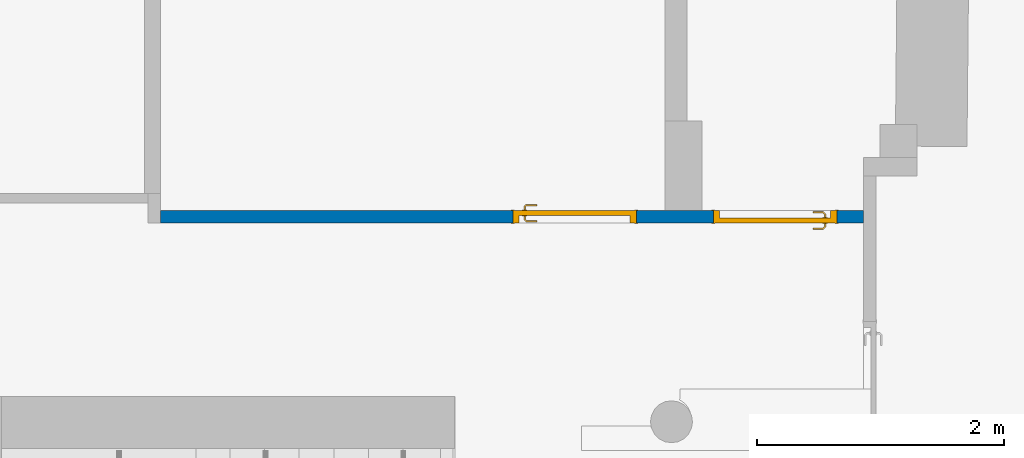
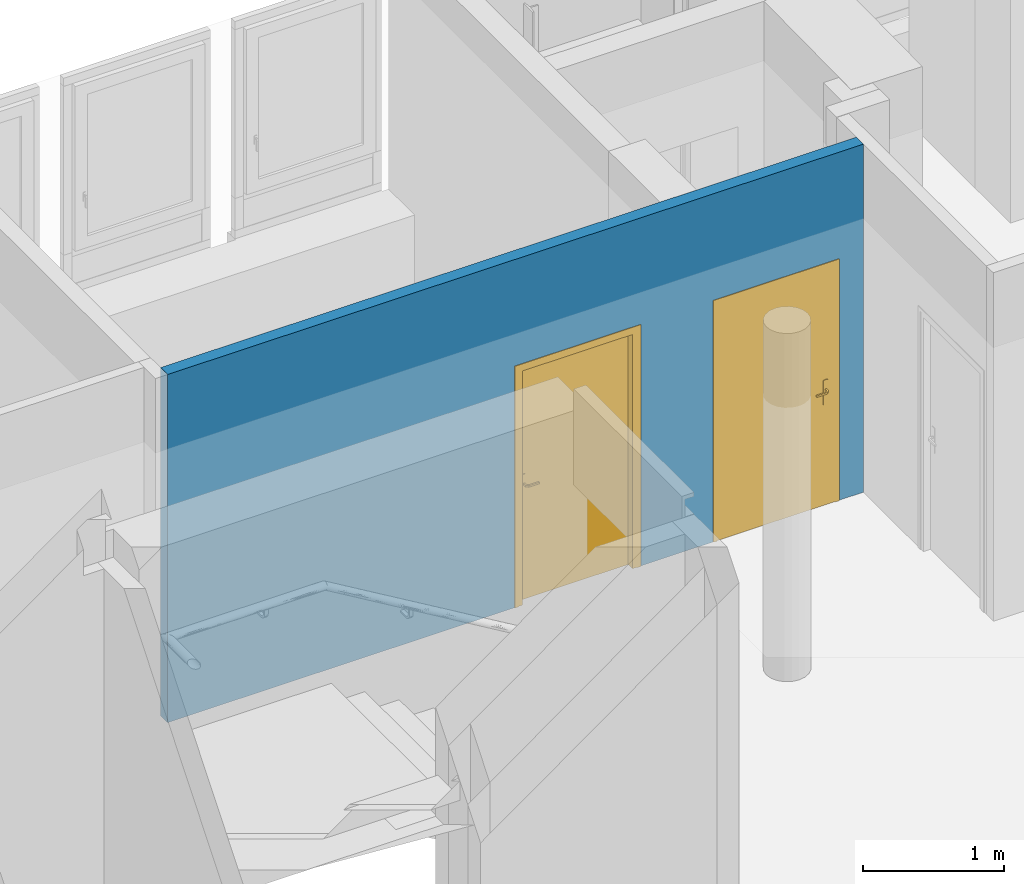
# One storey, part 70 of 97: 2 doors, 1 wall, 2 openings.
"""IFC4 building model written with IfcOpenShell, lengths in metres."""

import ifcopenshell
import ifcopenshell.guid

model = None  # the IFC model being written
_history = None  # IfcOwnerHistory: only IFC2X3 demands one
_inside = {}  # id of a spatial element -> (the spatial element, [elements in it])
_under = {}  # id of a project, library or spatial element -> (it, [spatial elements below it])
_declared = {}  # id of a project -> (the project, [libraries it declares])
_typed = {}  # id of a type object -> (the type object, [elements of that type])
_made_of = {}  # id of a material, layer set ... -> (it, [elements and type objects made of it])


def new_model(schema):
    """Start an empty IFC model of exactly this schema.

    Asked for "IFC4X3", IfcOpenShell would pick the latest addendum, in which some entities
    have other attributes; the version numbers below select the first issue.
    IFC2X3 requires an IfcOwnerHistory on every rooted entity: one is made here for all.
    """
    global model, _history
    if schema == "IFC4X3":
        model = ifcopenshell.file(schema_version=(4, 3, 0, 0))
    else:
        model = ifcopenshell.file(schema=schema)
    _inside.clear()
    _under.clear()
    _declared.clear()
    _typed.clear()
    _made_of.clear()
    _history = None
    if model.schema == "IFC2X3":
        org = make("IfcOrganization", Name="unknown")
        user = make(
            "IfcPersonAndOrganization",
            ThePerson=make("IfcPerson", FamilyName="unknown"),
            TheOrganization=org,
        )
        app = make(
            "IfcApplication",
            ApplicationDeveloper=org,
            Version="unknown",
            ApplicationFullName="unknown",
            ApplicationIdentifier="unknown",
        )
        _history = make(
            "IfcOwnerHistory",
            OwningUser=user,
            OwningApplication=app,
            ChangeAction="ADDED",
            CreationDate=0,
        )
    return model


def make(cls, **values):
    """One entity of the class cls with the attributes given. An attribute that is None is left unset."""
    return model.create_entity(
        cls, **{name: value for name, value in values.items() if value is not None}
    )


def entity(cls, *values):
    """Any entity or typed value of the class cls, its attributes in the order of the schema. None: left unset."""
    e = model.create_entity(cls)
    for i, value in enumerate(values):
        if value is not None:
            e[i] = value
    return e


def rooted(cls, **values):
    """An entity with a GlobalId (a new one), such as an element, a storey or a relation."""
    return make(cls, GlobalId=ifcopenshell.guid.new(), OwnerHistory=_history, **values)


def si_unit(unit_type, name, prefix=None):
    """IfcSIUnit, for example si_unit("LENGTHUNIT", "METRE", prefix="MILLI")."""
    return make("IfcSIUnit", UnitType=unit_type, Prefix=prefix, Name=name)


def converted_unit(unit_type, name, factor, base, dimensions=None, offset=None):
    """IfcConversionBasedUnit, such as the inch: factor (a typed value) times the base unit."""
    return make(
        "IfcConversionBasedUnit"
        if offset is None
        else "IfcConversionBasedUnitWithOffset",
        ConversionOffset=offset,
        Dimensions=None
        if dimensions is None
        else entity("IfcDimensionalExponents", *dimensions),
        UnitType=unit_type,
        Name=name,
        ConversionFactor=make(
            "IfcMeasureWithUnit", ValueComponent=factor, UnitComponent=base
        ),
    )


def derived_unit(unit_type, elements):
    """IfcDerivedUnit: a product of units, each with its exponent."""
    return make(
        "IfcDerivedUnit",
        Elements=[
            make("IfcDerivedUnitElement", Unit=unit, Exponent=power)
            for unit, power in elements
        ],
        UnitType=unit_type,
    )


def assignment(units):
    """IfcUnitAssignment: the units of a project."""
    return None if units is None else make("IfcUnitAssignment", Units=units)


def point(xyz):
    """IfcCartesianPoint."""
    return None if xyz is None else make("IfcCartesianPoint", Coordinates=xyz)


def direction(xyz):
    """IfcDirection."""
    return None if xyz is None else make("IfcDirection", DirectionRatios=xyz)


def frame(location, z_axis=None, x_axis=None):
    """IfcAxis2Placement3D, a coordinate frame: its origin and axes. An axis left out is left unset."""
    return make(
        "IfcAxis2Placement3D",
        Location=point(location),
        Axis=direction(z_axis),
        RefDirection=direction(x_axis),
    )


def origin():
    """The frame at (0, 0, 0) with its axes left unset."""
    return frame((0.0, 0.0, 0.0))


def place(relative_to, where):
    """IfcLocalPlacement: puts the frame where relative to a parent placement (None: the world)."""
    return make(
        "IfcLocalPlacement", PlacementRelTo=relative_to, RelativePlacement=where
    )


def context(
    kind, dimensions, precision=None, world=None, true_north=None, identifier=None
):
    """IfcGeometricRepresentationContext, for example the 3D "Model" context."""
    return make(
        "IfcGeometricRepresentationContext",
        ContextIdentifier=identifier,
        ContextType=kind,
        CoordinateSpaceDimension=dimensions,
        Precision=precision,
        WorldCoordinateSystem=world,
        TrueNorth=true_north,
    )


def subcontext(parent, identifier, kind, view, scale=None):
    """IfcGeometricRepresentationSubContext, for example "Body" below "Model"."""
    return make(
        "IfcGeometricRepresentationSubContext",
        ContextIdentifier=identifier,
        ContextType=kind,
        ParentContext=parent,
        TargetScale=scale,
        TargetView=view,
    )


def project(units=None, contexts=None):
    """IfcProject with its units and contexts."""
    return rooted(
        "IfcProject",
        Name="project",
        RepresentationContexts=contexts,
        UnitsInContext=assignment(units),
    )


def spatial(cls, under=None, at=None, **own):
    """A site, building, storey or space (cls), placed at a placement, below another one or the project."""
    s = rooted(cls, ObjectPlacement=at, **own)
    if under is not None:
        _under.setdefault(under.id(), (under, []))[1].append(s)
    return s


def point_list(points):
    """IfcCartesianPointList2D or 3D."""
    cls = (
        "IfcCartesianPointList2D" if len(points[0]) == 2 else "IfcCartesianPointList3D"
    )
    return make(cls, CoordList=points)


def indexed_curve(points, segments=None, self_intersect=None):
    """IfcIndexedPolyCurve: lines and arcs through numbered points (the first is 1)."""
    return make(
        "IfcIndexedPolyCurve",
        Points=point_list(points),
        Segments=segments,
        SelfIntersect=self_intersect,
    )


def outline(outer, holes=None, kind="AREA"):
    """IfcArbitraryClosedProfileDef: a profile drawn as a closed curve; with holes, ...WithVoids."""
    if holes is None:
        return make("IfcArbitraryClosedProfileDef", ProfileType=kind, OuterCurve=outer)
    return make(
        "IfcArbitraryProfileDefWithVoids",
        ProfileType=kind,
        OuterCurve=outer,
        InnerCurves=holes,
    )


def extrude(swept, where, along, depth):
    """IfcExtrudedAreaSolid: the profile swept, set in the frame where, extruded along a direction by depth."""
    return make(
        "IfcExtrudedAreaSolid",
        SweptArea=swept,
        Position=where,
        ExtrudedDirection=direction(along),
        Depth=depth,
    )


def polygons(points, faces, closed=None, point_numbers=None):
    """IfcPolygonalFaceSet: a face is its outer loop, then its inner loops; points numbered from 1."""
    made = []
    for loops in faces:
        if len(loops) == 1:
            made.append(make("IfcIndexedPolygonalFace", CoordIndex=loops[0]))
        else:
            made.append(
                make(
                    "IfcIndexedPolygonalFaceWithVoids",
                    CoordIndex=loops[0],
                    InnerCoordIndices=loops[1:],
                )
            )
    return make(
        "IfcPolygonalFaceSet",
        Coordinates=point_list(points),
        Closed=closed,
        Faces=made,
        PnIndex=point_numbers,
    )


def shape(context_of_items, identifier, shape_type, items):
    """IfcShapeRepresentation: the items that make up one representation, for example the "Body"."""
    return make(
        "IfcShapeRepresentation",
        ContextOfItems=context_of_items,
        RepresentationIdentifier=identifier,
        RepresentationType=shape_type,
        Items=items,
    )


def source(mapping_origin, context_of_items, identifier, shape_type, items):
    """IfcRepresentationMap: a shape defined once, which mapped items show again and again."""
    return make(
        "IfcRepresentationMap",
        MappingOrigin=mapping_origin,
        MappedRepresentation=shape(context_of_items, identifier, shape_type, items),
    )


def transform(
    local_origin,
    x_axis=None,
    y_axis=None,
    z_axis=None,
    scale=None,
    scale2=None,
    scale3=None,
    uniform=True,
):
    """IfcCartesianTransformationOperator3D, or its non-uniform kind. x_axis, y_axis, z_axis: its Axis1, 2, 3."""
    if uniform:
        return make(
            "IfcCartesianTransformationOperator3D",
            Axis1=direction(x_axis),
            Axis2=direction(y_axis),
            LocalOrigin=point(local_origin),
            Scale=scale,
            Axis3=direction(z_axis),
        )
    return make(
        "IfcCartesianTransformationOperator3DnonUniform",
        Axis1=direction(x_axis),
        Axis2=direction(y_axis),
        LocalOrigin=point(local_origin),
        Scale=scale,
        Axis3=direction(z_axis),
        Scale2=scale2,
        Scale3=scale3,
    )


def mapped(mapping_source, mapping_target):
    """IfcMappedItem: shows the shape of a source again, moved by a transform."""
    return make(
        "IfcMappedItem", MappingSource=mapping_source, MappingTarget=mapping_target
    )


def material(Name=None, Category=None):
    """IfcMaterial."""
    return make("IfcMaterial", Name=Name, Category=Category)


def material_list(materials):
    """IfcMaterialList."""
    return make("IfcMaterialList", Materials=materials)


def layer(
    of_material, thickness, ventilated=None, Name=None, Category=None, Priority=None
):
    """IfcMaterialLayer: one layer of a wall or slab, of a material (None: an air gap)."""
    return make(
        "IfcMaterialLayer",
        Material=of_material,
        LayerThickness=thickness,
        IsVentilated=ventilated,
        Name=Name,
        Category=Category,
        Priority=Priority,
    )


def layer_set(layers, Name=None):
    """IfcMaterialLayerSet."""
    return make("IfcMaterialLayerSet", MaterialLayers=layers, LayerSetName=Name)


def constituent(of_material, Name=None, Category=None, fraction=None):
    """IfcMaterialConstituent: one of the materials an element consists of."""
    return make(
        "IfcMaterialConstituent",
        Name=Name,
        Material=of_material,
        Fraction=fraction,
        Category=Category,
    )


def constituent_set(constituents=None, Name=None):
    """IfcMaterialConstituentSet."""
    return make(
        "IfcMaterialConstituentSet", Name=Name, MaterialConstituents=constituents
    )


def made_of(thing, what):
    """Note that an element or type object is made of a material, layer set ...; save() writes the relation."""
    if what is not None:
        _made_of.setdefault(what.id(), (what, []))[1].append(thing)
    return thing


def type_object(cls, material=None, **own):
    """A type object (cls), such as IfcWallType, which elements share."""
    return made_of(rooted(cls, **own), material)


def type_shapes(of_type, sources):
    """Give a type object the sources (RepresentationMaps) that its elements show as mapped items."""
    of_type.RepresentationMaps = sources


def element(
    cls,
    number,
    at=None,
    inside=None,
    cuts=None,
    type_object=None,
    material=None,
    context=None,
    identifier="Body",
    shape_type=None,
    held_by="IfcProductDefinitionShape",
    body=None,
    shapes=None,
    **own,
):
    """One element of the class cls, such as IfcWall. Its Tag is "e" and its number.

    at: its placement. inside: the storey or other place that contains it. cuts: it is an
    opening in that element (IfcRelVoidsElement). A single representation is given by context,
    identifier, shape_type and body (its items); several are given by shapes. held_by: the class
    of the entity that holds the representations. save() writes the other relations.
    """
    e = rooted(cls, Tag="e%d" % number, ObjectPlacement=at, **own)
    if body is not None:
        shapes = [shape(context, identifier, shape_type, body)]
    if shapes is not None:
        e.Representation = make(held_by, Representations=shapes)
    if inside is not None:
        _inside.setdefault(inside.id(), (inside, []))[1].append(e)
    if cuts is not None:
        rooted(
            "IfcRelVoidsElement", RelatingBuildingElement=cuts, RelatedOpeningElement=e
        )
    if type_object is not None:
        _typed.setdefault(type_object.id(), (type_object, []))[1].append(e)
    return made_of(e, material)


def fill(opening, filler):
    """IfcRelFillsElement: the door or window that sits in an opening."""
    return rooted(
        "IfcRelFillsElement",
        RelatingOpeningElement=opening,
        RelatedBuildingElement=filler,
    )


def aggregate(whole, parts):
    """IfcRelAggregates: a whole, such as a stair, and the parts it consists of."""
    return rooted("IfcRelAggregates", RelatingObject=whole, RelatedObjects=parts)


def save(model, path):
    """Write the relations noted so far, then the file.

    IfcRelAggregates (storeys below a building ...), IfcRelContainedInSpatialStructure (elements
    in a storey), IfcRelDefinesByType, IfcRelAssociatesMaterial and IfcRelDeclares: one each for
    every whole, place, type object, material and project.
    """
    for whole, parts in _under.values():
        aggregate(whole, parts)
    for where, things in _inside.values():
        rooted(
            "IfcRelContainedInSpatialStructure",
            RelatedElements=things,
            RelatingStructure=where,
        )
    for kind, things in _typed.values():
        rooted("IfcRelDefinesByType", RelatedObjects=things, RelatingType=kind)
    for what, things in _made_of.values():
        rooted("IfcRelAssociatesMaterial", RelatedObjects=things, RelatingMaterial=what)
    for by, libraries in _declared.values():
        rooted("IfcRelDeclares", RelatingContext=by, RelatedDefinitions=libraries)
    model.write(path)


model = new_model("IFC4")

# Units and contexts
model_context = context("Model", 3, precision=1e-05, world=origin(), true_north=direction((6.12303176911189e-17, 1.0)))
body_context = subcontext(model_context, "Body", "Model", "MODEL_VIEW")
ifc_project = project(units=[si_unit("LENGTHUNIT", "METRE"), si_unit("AREAUNIT", "SQUARE_METRE"), si_unit("VOLUMEUNIT", "CUBIC_METRE"), converted_unit("PLANEANGLEUNIT", "DEGREE", entity("IfcRatioMeasure", 0.0174532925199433), si_unit("PLANEANGLEUNIT", "RADIAN"), dimensions=[0, 0, 0, 0, 0, 0, 0]), si_unit("MASSUNIT", "GRAM", prefix="KILO"), derived_unit("MASSDENSITYUNIT", [(si_unit("MASSUNIT", "GRAM", prefix="KILO"), 1), (si_unit("LENGTHUNIT", "METRE"), -3)]), derived_unit("MOMENTOFINERTIAUNIT", [(si_unit("LENGTHUNIT", "METRE"), 4)]), si_unit("TIMEUNIT", "SECOND"), si_unit("FREQUENCYUNIT", "HERTZ"), si_unit("THERMODYNAMICTEMPERATUREUNIT", "DEGREE_CELSIUS"), derived_unit("THERMALTRANSMITTANCEUNIT", [(si_unit("MASSUNIT", "GRAM", prefix="KILO"), 1), (si_unit("THERMODYNAMICTEMPERATUREUNIT", "KELVIN"), -1), (si_unit("TIMEUNIT", "SECOND"), -3)]), derived_unit("VOLUMETRICFLOWRATEUNIT", [(si_unit("LENGTHUNIT", "METRE"), 3), (si_unit("TIMEUNIT", "SECOND"), -1)]), si_unit("ELECTRICCURRENTUNIT", "AMPERE"), si_unit("ELECTRICVOLTAGEUNIT", "VOLT"), si_unit("POWERUNIT", "WATT"), si_unit("FORCEUNIT", "NEWTON", prefix="KILO"), si_unit("ILLUMINANCEUNIT", "LUX"), si_unit("LUMINOUSFLUXUNIT", "LUMEN"), si_unit("LUMINOUSINTENSITYUNIT", "CANDELA"), derived_unit("USERDEFINED", [(si_unit("MASSUNIT", "GRAM", prefix="KILO"), -1), (si_unit("LENGTHUNIT", "METRE"), -2), (si_unit("TIMEUNIT", "SECOND"), 3), (si_unit("LUMINOUSFLUXUNIT", "LUMEN"), 1)]), derived_unit("LINEARVELOCITYUNIT", [(si_unit("LENGTHUNIT", "METRE"), 1), (si_unit("TIMEUNIT", "SECOND"), -1)]), si_unit("PRESSUREUNIT", "PASCAL"), derived_unit("USERDEFINED", [(si_unit("LENGTHUNIT", "METRE"), -2), (si_unit("MASSUNIT", "GRAM", prefix="KILO"), 1), (si_unit("TIMEUNIT", "SECOND"), -2)]), derived_unit("LINEARFORCEUNIT", [(si_unit("MASSUNIT", "GRAM", prefix="KILO"), 1), (si_unit("LENGTHUNIT", "METRE"), 1), (si_unit("TIMEUNIT", "SECOND"), -2), (si_unit("LENGTHUNIT", "METRE"), -1)]), derived_unit("PLANARFORCEUNIT", [(si_unit("MASSUNIT", "GRAM", prefix="KILO"), 1), (si_unit("LENGTHUNIT", "METRE"), 1), (si_unit("TIMEUNIT", "SECOND"), -2), (si_unit("LENGTHUNIT", "METRE"), -2)])], contexts=[model_context])

# Site, building, storey
site_placement = place(None, origin())
site = spatial("IfcSite", under=ifc_project, at=site_placement, Name="Default", CompositionType="ELEMENT")
building_placement = place(site_placement, origin())
building = spatial("IfcBuilding", under=site, at=building_placement, Name="HOTEL CONSULAIRE BOULOGNE SUR MER", CompositionType="ELEMENT")
storey_placement = place(building_placement, frame((0.0, 0.0, 3.62152697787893)))
storey = spatial("IfcBuildingStorey", under=building, at=storey_placement, Name="Niveau 1", CompositionType="ELEMENT", Elevation=3.62152697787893)

# Wall, openings, doors
ifc_material_1 = material(Name="Mur par défaut", Category="Divers")
ifc_layer = layer(ifc_material_1, 0.1, Name="Mur par défaut", Category="Divers")
ifc_layer_set = layer_set([ifc_layer], Name="Mur de base:Générique - Int. 100 mm")
wall_type = type_object("IfcWallType", Name="Mur de base:Générique - Int. 100 mm", PredefinedType="NOTDEFINED", material=ifc_layer_set)
wall_placement = place(storey_placement, frame((3.0442977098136, -13.9807839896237, 0.0)))
wall = element("IfcWall", 1, at=wall_placement, inside=storey, type_object=wall_type, material=ifc_layer_set, Name="Mur de base:Générique - Int. 100 mm", ObjectType="Mur de base:Générique - Int. 100 mm", PredefinedType="NOTDEFINED", context=body_context, shape_type="Tessellation", body=[
    polygons([(2.85229624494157, -0.0499999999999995, 0.0), (5.25301510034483e-16, -0.0499999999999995, 0.0), (1.85833511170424e-16, 0.0499999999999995, 0.0), (2.85229624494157, 0.0499999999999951, 0.0), (4.47629624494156, -0.0500000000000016, 0.0), (3.85229624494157, -0.0499999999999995, 0.0), (3.85229624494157, 0.0499999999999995, 0.0), (4.47629624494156, 0.0500000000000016, 0.0), (5.69134058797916, -0.0499999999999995, 3.01021454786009), (5.25301510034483e-16, -0.0499999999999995, 3.01021454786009), (2.85229624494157, -0.0500000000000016, 2.075), (3.85229624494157, -0.0499999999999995, 2.075), (4.47629624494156, -0.0499999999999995, 2.075), (5.47629624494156, -0.0500000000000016, 2.075), (5.47629624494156, -0.0500000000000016, 0.0), (5.69134058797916, -0.0499999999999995, 0.0), (-3.55600053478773e-16, 0.0499999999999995, 3.01021454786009), (4.0846825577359, 0.0499999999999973, 3.01021454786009), (4.3846825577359, 0.0499999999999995, 3.01021454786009), (5.69134058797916, 0.0499999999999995, 3.01021454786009), (5.69134058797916, 0.0499999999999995, 0.0), (5.47629624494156, 0.0499999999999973, 0.0), (5.47629624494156, 0.0499999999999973, 2.075), (4.47629624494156, 0.0499999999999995, 2.075), (3.85229624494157, 0.0499999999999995, 2.075), (2.85229624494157, 0.0499999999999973, 2.075)], [[[4, 1, 2, 3]], [[8, 5, 6, 7]], [[26, 25, 12, 11]], [[14, 13, 24, 23]], [[22, 21, 16, 15]], [[2, 1, 11, 12, 6, 5, 13, 14, 15, 16, 9, 10]], [[23, 24, 8, 7, 25, 26, 4, 3, 17, 18, 19, 20, 21, 22]], [[10, 9, 20, 19, 18, 17]], [[3, 2, 10, 17]], [[25, 7, 6, 12]], [[15, 14, 23, 22]], [[4, 26, 11, 1]], [[13, 5, 8, 24]], [[16, 21, 20, 9]]], closed=True),
])
opening_1_placement = place(wall_placement, frame((2.85229624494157, -0.049999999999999, 0.0)))
opening_1 = element("IfcOpeningElement", 2, at=opening_1_placement, cuts=wall, Name="Int. Simple:PP0.93x2.04:1", ObjectType="Opening", PredefinedType="OPENING", context=body_context, shape_type="SweptSolid", body=[
    extrude(outline(indexed_curve([(0.0, 1.0), (0.0, -3.18777030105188e-30), (2.075, -3.18777030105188e-30), (2.075, 1.0), (0.0, 1.0)], self_intersect=False)), frame((0.0, 0.0, 0.0), z_axis=(0.0, 1.0, 0.0), x_axis=(0.0, 0.0, 1.0)), (0.0, 0.0, 1.0), 0.1),
])
opening_2_placement = place(wall_placement, frame((5.47629624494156, 0.049999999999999, 0.0)))
opening_2 = element("IfcOpeningElement", 3, at=opening_2_placement, cuts=wall, Name="Int. Simple:PP0.93x2.04:1", ObjectType="Opening", PredefinedType="OPENING", context=body_context, shape_type="SweptSolid", body=[
    extrude(outline(indexed_curve([(0.0, 1.0), (0.0, -3.18777030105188e-30), (2.075, -3.18777030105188e-30), (2.075, 1.0), (0.0, 1.0)], self_intersect=False)), frame((0.0, 0.0, 0.0), z_axis=(0.0, -1.0, 0.0), x_axis=(0.0, 0.0, 1.0)), (0.0, 0.0, 1.0), 0.1),
])
ifc_material_2 = material(Name="Finition Peinture - Blanc satiné", Category="Peinture")
ifc_constituent_1 = constituent(ifc_material_2, Name="Finition Peinture - Blanc satiné", Category="Matériaux")
ifc_material_3 = material(Name="Bois - Panneau de porte", Category="Bois")
ifc_constituent_2 = constituent(ifc_material_3, Name="Bois - Panneau de porte", Category="Matériaux")
ifc_material_4 = material(Name="Bois - Cadre de porte", Category="Bois")
ifc_constituent_3 = constituent(ifc_material_4, Name="Bois - Cadre de porte", Category="Matériaux")
ifc_constituent_set_1 = constituent_set(constituents=[ifc_constituent_1, ifc_constituent_2, ifc_constituent_3], Name="MaterialConstituentSet")
ifc_material_list = material_list([ifc_material_3, ifc_material_2, ifc_material_4, ifc_material_4])
door_type = type_object("IfcDoorType", Name="Int. Simple:PP0.93x2.04", OperationType="NOTDEFINED", PredefinedType="DOOR", material=ifc_material_list)
shared_shape = source(origin(), body_context, "Body", "Tessellation", [
    polygons([(0.995000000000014, -0.00500000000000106, 0.870000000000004), (0.995000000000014, -0.00500000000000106, 1.08), (0.985352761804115, -0.00500000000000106, 1.08399601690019), (0.975000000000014, -0.00500000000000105, 1.08535898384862), (0.964647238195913, -0.00500000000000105, 1.08399601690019), (0.955000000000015, -0.00500000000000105, 1.08), (0.955000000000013, -0.00500000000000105, 0.870000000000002), (0.964647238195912, -0.00500000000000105, 0.866003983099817), (0.975000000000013, -0.00500000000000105, 0.86464101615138), (0.985352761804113, -0.00500000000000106, 0.866003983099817), (0.995000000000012, -1.06594733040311e-15, 0.870000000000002), (0.985352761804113, -1.06594733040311e-15, 0.866003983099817), (0.975000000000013, -1.05748743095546e-15, 0.86464101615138), (0.964647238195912, -1.05748743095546e-15, 0.866003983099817), (0.955000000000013, -1.04902753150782e-15, 0.870000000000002), (0.955000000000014, -1.04902753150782e-15, 1.08), (0.964647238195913, -1.05748743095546e-15, 1.08399601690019), (0.975000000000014, -1.05748743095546e-15, 1.08535898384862), (0.985352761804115, -1.06594733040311e-15, 1.08399601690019), (0.995000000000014, -1.06594733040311e-15, 1.08)], [[[1, 2, 3, 4, 5, 6, 7, 8, 9, 10]], [[20, 11, 12, 13, 14, 15, 16, 17, 18, 19]], [[10, 12, 11, 1]], [[9, 13, 12, 10]], [[8, 14, 13, 9]], [[8, 7, 15, 14]], [[15, 7, 6, 16]], [[5, 17, 16, 6]], [[4, 18, 17, 5]], [[3, 19, 18, 4]], [[3, 2, 20, 19]], [[11, 20, 2, 1]]], closed=True),
    polygons([(0.955000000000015, 0.0399999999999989, 1.08), (0.955000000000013, 0.0399999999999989, 0.870000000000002), (0.964647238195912, 0.0399999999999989, 0.866003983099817), (0.975000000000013, 0.0399999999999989, 0.86464101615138), (0.985352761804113, 0.0399999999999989, 0.866003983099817), (0.995000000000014, 0.0399999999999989, 0.870000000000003), (0.995000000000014, 0.0399999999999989, 1.08), (0.985352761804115, 0.0399999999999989, 1.08399601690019), (0.975000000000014, 0.0399999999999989, 1.08535898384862), (0.964647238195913, 0.0399999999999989, 1.08399601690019), (0.955000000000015, 0.0449999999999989, 1.08), (0.964647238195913, 0.0449999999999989, 1.08399601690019), (0.975000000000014, 0.0449999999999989, 1.08535898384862), (0.985352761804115, 0.0449999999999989, 1.08399601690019), (0.995000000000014, 0.0449999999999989, 1.08), (0.995000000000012, 0.0449999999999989, 0.870000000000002), (0.985352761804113, 0.0449999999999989, 0.866003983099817), (0.975000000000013, 0.0449999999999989, 0.86464101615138), (0.964647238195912, 0.0449999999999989, 0.866003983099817), (0.955000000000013, 0.0449999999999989, 0.870000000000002)], [[[6, 7, 8, 9, 10, 1, 2, 3, 4, 5]], [[13, 14, 15, 16, 17, 18, 19, 20, 11, 12]], [[10, 12, 11, 1]], [[9, 13, 12, 10]], [[8, 14, 13, 9]], [[8, 7, 15, 14]], [[16, 15, 7, 6]], [[5, 17, 16, 6]], [[4, 18, 17, 5]], [[3, 19, 18, 4]], [[3, 2, 20, 19]], [[20, 2, 1, 11]]], closed=True),
    polygons([(0.981000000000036, -0.00500000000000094, 1.00699999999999), (0.981000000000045, -0.00500000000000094, 0.992999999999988), (0.977025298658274, -0.00500000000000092, 0.99221955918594), (0.972974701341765, -0.0050000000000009, 0.992219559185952), (0.968999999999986, -0.00500000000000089, 0.993000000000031), (0.968999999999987, -0.00500000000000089, 1.007), (0.972974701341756, -0.0050000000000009, 1.00778044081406), (0.977025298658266, -0.00500000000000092, 1.00778044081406), (0.968999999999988, -0.0276803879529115, 1.007), (0.972974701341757, -0.0293267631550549, 1.00778044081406), (0.977025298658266, -0.0310045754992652, 1.00778044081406), (0.981000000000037, -0.0326509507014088, 1.007), (0.968999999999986, -0.0276803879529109, 0.993000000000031), (0.981000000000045, -0.0326509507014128, 0.992999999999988), (0.977025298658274, -0.0310045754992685, 0.99221955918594), (0.972974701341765, -0.0293267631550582, 0.992219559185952), (0.957652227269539, -0.0390281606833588, 1.007), (0.959298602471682, -0.0430028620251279, 1.00778044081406), (0.960976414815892, -0.0470534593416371, 1.00778044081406), (0.962622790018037, -0.051028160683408, 1.007), (0.957652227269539, -0.0390281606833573, 0.993000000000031), (0.96262279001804, -0.0510281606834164, 0.992999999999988), (0.960976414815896, -0.0470534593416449, 0.99221955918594), (0.959298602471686, -0.0430028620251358, 0.992219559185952), (0.874981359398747, -0.0510281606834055, 1.007), (0.874981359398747, -0.0470534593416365, 1.00778044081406), (0.874981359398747, -0.0430028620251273, 1.00778044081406), (0.874981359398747, -0.0390281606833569, 1.00699999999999), (0.874981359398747, -0.0390281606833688, 0.993000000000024), (0.874981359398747, -0.0430028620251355, 0.992219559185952), (0.874981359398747, -0.0470534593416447, 0.99221955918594), (0.874981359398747, -0.0510281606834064, 0.992999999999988), (0.922692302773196, -0.051028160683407, 1.007), (0.917139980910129, -0.045028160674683, 1.0078786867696), (0.916316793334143, -0.039028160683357, 1.007), (0.922692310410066, -0.0510281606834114, 0.992999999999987), (0.917139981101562, -0.0450281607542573, 0.992121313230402), (0.916316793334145, -0.0390281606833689, 0.993000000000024)], [[[7, 8, 1, 2, 3, 4, 5, 6]], [[17, 21, 38, 29, 28, 35]], [[1, 8, 11, 12]], [[8, 7, 10, 18, 19, 11]], [[7, 6, 9, 10]], [[13, 9, 6, 5]], [[25, 26, 27, 28, 29, 30, 31, 32]], [[4, 16, 13, 5]], [[4, 3, 15, 23, 24, 16]], [[2, 14, 15, 3]], [[12, 14, 2, 1]], [[12, 11, 19, 20]], [[10, 9, 17, 18]], [[21, 17, 9, 13]], [[13, 16, 24, 21]], [[15, 14, 22, 23]], [[20, 22, 14, 12]], [[34, 26, 33]], [[33, 26, 25]], [[33, 20, 19]], [[18, 35, 34]], [[35, 18, 17]], [[28, 27, 35]], [[34, 27, 26]], [[34, 35, 27]], [[34, 33, 19]], [[18, 34, 19]], [[37, 30, 38]], [[31, 37, 36]], [[24, 38, 21]], [[30, 29, 38]], [[31, 36, 32]], [[36, 23, 22]], [[37, 23, 36]], [[37, 24, 23]], [[37, 38, 24]], [[30, 37, 31]], [[22, 20, 33, 25, 32, 36]]], closed=True),
    polygons([(0.968999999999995, 0.0449999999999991, 0.993000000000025), (0.972974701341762, 0.0449999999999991, 0.992219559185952), (0.977025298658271, 0.0449999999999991, 0.99221955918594), (0.981000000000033, 0.044999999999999, 0.992999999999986), (0.981000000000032, 0.044999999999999, 1.007), (0.977025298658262, 0.0449999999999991, 1.00778044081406), (0.972974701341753, 0.0449999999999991, 1.00778044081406), (0.968999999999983, 0.0449999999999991, 1.007), (0.968999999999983, 0.067485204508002, 1.007), (0.968999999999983, 0.0674852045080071, 0.993000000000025), (0.981000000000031, 0.0724557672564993, 1.007), (0.977025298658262, 0.070809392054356, 1.00778044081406), (0.972974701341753, 0.0691315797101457, 1.00778044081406), (0.981000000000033, 0.0724557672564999, 0.992999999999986), (0.972974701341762, 0.0691315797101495, 0.992219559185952), (0.977025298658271, 0.0708093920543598, 0.99221955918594), (0.957514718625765, 0.0789704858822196, 1.007), (0.957514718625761, 0.0789704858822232, 0.993000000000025), (0.962485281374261, 0.0909704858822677, 1.007), (0.960838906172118, 0.0869957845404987, 1.00778044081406), (0.959161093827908, 0.0829451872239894, 1.00778044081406), (0.962485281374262, 0.0909704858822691, 0.992999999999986), (0.959161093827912, 0.0829451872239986, 0.992219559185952), (0.960838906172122, 0.0869957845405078, 0.99221955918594), (0.874954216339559, 0.0789704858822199, 0.993000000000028), (0.874954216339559, 0.0789704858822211, 1.007), (0.874954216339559, 0.0829451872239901, 1.00778044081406), (0.874954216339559, 0.0869957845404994, 1.00778044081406), (0.874954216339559, 0.0909704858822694, 1.007), (0.874954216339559, 0.0909704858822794, 0.992999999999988), (0.874954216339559, 0.086995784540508, 0.99221955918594), (0.874954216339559, 0.0829451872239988, 0.992219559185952), (0.922554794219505, 0.0909704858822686, 1.007), (0.917057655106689, 0.0849704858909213, 1.0078786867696), (0.916234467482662, 0.0789704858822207, 1.007), (0.922554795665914, 0.0909704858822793, 0.992999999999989), (0.917057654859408, 0.0849704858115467, 0.992121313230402), (0.916234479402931, 0.0789704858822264, 0.993000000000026)], [[[2, 3, 4, 5, 6, 7, 8, 1]], [[18, 17, 35, 26, 25, 38]], [[9, 10, 1, 8]], [[27, 28, 29, 30, 31, 32, 25, 26]], [[7, 13, 9, 8]], [[7, 6, 12, 20, 21, 13]], [[5, 11, 12, 6]], [[11, 5, 4, 14]], [[4, 3, 16, 14]], [[3, 2, 15, 23, 24, 16]], [[2, 1, 10, 15]], [[17, 18, 10, 9]], [[9, 13, 21, 17]], [[11, 19, 20, 12]], [[22, 19, 11, 14]], [[14, 16, 24, 22]], [[15, 10, 18, 23]], [[34, 27, 35]], [[28, 34, 33]], [[21, 35, 17]], [[27, 26, 35]], [[28, 33, 29]], [[33, 20, 19]], [[34, 20, 33]], [[34, 21, 20]], [[34, 35, 21]], [[27, 34, 28]], [[19, 22, 36, 30, 29, 33]], [[37, 31, 36]], [[36, 31, 30]], [[36, 22, 24]], [[23, 38, 37]], [[38, 23, 18]], [[25, 32, 38]], [[37, 32, 31]], [[37, 38, 32]], [[37, 36, 24]], [[23, 37, 24]]], closed=True),
    polygons([(1.03500000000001, 0.04, 2.04), (1.03500000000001, 0.04, 0.0), (0.105000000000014, 0.04, 0.0), (0.105000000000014, 0.04, 2.04), (1.03500000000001, 3.38395977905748e-17, 2.04), (0.105000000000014, 3.38395977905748e-17, 2.04), (0.105000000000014, 3.38395977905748e-17, 0.0), (1.03500000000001, 3.38395977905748e-17, 0.0)], [[[3, 4, 1, 2]], [[8, 5, 6, 7]], [[5, 1, 4, 6]], [[6, 4, 3, 7]], [[7, 3, 2, 8]], [[8, 2, 1, 5]]], closed=True),
    polygons([(1.07000000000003, 0.0, 0.0), (1.03500000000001, 0.0, 0.0), (1.03500000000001, 0.040000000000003, 0.0), (1.02000000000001, 0.040000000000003, 0.0), (1.02000000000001, 0.100000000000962, 0.0), (1.07000000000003, 0.100000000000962, 0.0), (1.07000000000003, 0.100000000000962, 2.07500000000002), (1.07000000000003, 0.0, 2.07500000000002), (1.02000000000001, 0.100000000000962, 2.025), (0.120000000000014, 0.100000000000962, 2.025), (0.120000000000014, 0.100000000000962, 3.59657255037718e-24), (0.0699999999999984, 0.100000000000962, 3.88816484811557e-25), (0.0699999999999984, 0.100000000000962, 2.07500000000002), (1.02000000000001, 0.040000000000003, 2.025), (1.03500000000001, 0.040000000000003, 2.04), (0.105000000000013, 0.040000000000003, 2.04), (0.105000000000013, 0.040000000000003, -4.78103047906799e-25), (0.120000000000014, 0.040000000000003, 2.24110802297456e-24), (0.120000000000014, 0.040000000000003, 2.025), (1.03500000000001, 0.0, 2.04), (0.0699999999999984, 0.0, 2.07500000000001), (0.0699999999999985, 0.0, -3.95490158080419e-25), (0.105000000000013, 0.0, -2.84752548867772e-24), (0.105000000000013, 0.0, 2.04)], [[[5, 6, 1, 2, 3, 4]], [[17, 23, 22, 12, 11, 18]], [[19, 10, 9, 14]], [[24, 16, 15, 20]], [[7, 8, 1, 6]], [[18, 11, 10, 19]], [[17, 16, 24, 23]], [[9, 10, 11, 12, 13, 7, 6, 5]], [[14, 9, 5, 4]], [[15, 3, 2, 20]], [[12, 22, 21, 13]], [[19, 14, 4, 3, 15, 16, 17, 18]], [[24, 20, 2, 1, 8, 21, 22, 23]], [[21, 8, 7, 13]]], closed=True),
    polygons([(1.05500000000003, 0.100000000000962, 0.0), (1.05500000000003, 0.105000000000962, 0.0), (1.08500000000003, 0.105000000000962, 0.0), (1.08500000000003, 0.100000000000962, 0.0), (1.08500000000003, 0.100000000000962, 2.09000000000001), (0.0550000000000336, 0.100000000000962, 2.09000000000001), (0.0550000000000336, 0.100000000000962, -9.00794238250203e-25), (0.0850000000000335, 0.100000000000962, -1.80158911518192e-24), (0.0850000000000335, 0.100000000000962, 2.06000000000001), (1.05500000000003, 0.100000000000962, 2.06000000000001), (1.08500000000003, 0.105000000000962, 2.09000000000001), (1.05500000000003, 0.105000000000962, 2.06000000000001), (0.0850000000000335, 0.105000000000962, 2.06000000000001), (0.0850000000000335, 0.105000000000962, -4.34281663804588e-24), (0.0550000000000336, 0.105000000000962, -5.48159974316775e-24), (0.0550000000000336, 0.105000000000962, 2.09000000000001)], [[[2, 3, 4, 1]], [[7, 15, 14, 8]], [[13, 12, 10, 9]], [[9, 10, 1, 4, 5, 6, 7, 8]], [[11, 5, 4, 3]], [[8, 14, 13, 9]], [[12, 13, 14, 15, 16, 11, 3, 2]], [[10, 12, 2, 1]], [[15, 7, 6, 16]], [[6, 5, 11, 16]]], closed=True),
    polygons([(1.05500000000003, -0.005, 0.0), (1.05500000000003, 0.0, 0.0), (1.08500000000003, 0.0, 0.0), (1.08500000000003, -0.005, 0.0), (0.0850000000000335, -0.005, 5.41433564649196e-16), (0.0550000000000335, -0.005, 5.41433564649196e-16), (0.0550000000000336, 0.0, 5.41433564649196e-16), (0.0850000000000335, 0.0, 5.41433564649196e-16), (1.08500000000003, -0.005, 2.09000000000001), (0.0550000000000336, -0.005, 2.09000000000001), (0.0850000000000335, -0.005, 2.06000000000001), (1.05500000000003, -0.005, 2.06000000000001), (1.08500000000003, 0.0, 2.09000000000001), (1.05500000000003, 0.0, 2.06000000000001), (0.0850000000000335, 0.0, 2.06000000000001), (0.0550000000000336, 0.0, 2.09000000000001)], [[[2, 3, 4, 1]], [[6, 7, 8, 5]], [[15, 14, 12, 11]], [[11, 12, 1, 4, 9, 10, 6, 5]], [[13, 9, 4, 3]], [[5, 8, 15, 11]], [[14, 15, 8, 7, 16, 13, 3, 2]], [[12, 14, 2, 1]], [[7, 6, 10, 16]], [[16, 10, 9, 13]]], closed=True),
])
type_shapes(door_type, [shared_shape])
door_1_placement = place(opening_1_placement, frame((1.07000000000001, 0.0999999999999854, 0.0), z_axis=(0.0, 0.0, 1.0), x_axis=(-1.0, 0.0, 0.0)))
door_1 = element("IfcDoor", 4, at=door_1_placement, inside=storey, type_object=door_type, material=ifc_constituent_set_1, Name="Int. Simple:PP0.93x2.04", ObjectType="Int. Simple:PP0.93x2.04", OperationType="NOTDEFINED", OverallHeight=2.075, OverallWidth=1.0, PredefinedType="DOOR", context=body_context, shape_type="MappedRepresentation", body=[
    mapped(shared_shape, transform((0.0, 0.0, 0.0), scale=1.0)),
])
fill(opening_1, door_1)
ifc_constituent_4 = constituent(ifc_material_2, Name="Finition Peinture - Blanc satiné", Category="Matériaux")
ifc_constituent_5 = constituent(ifc_material_3, Name="Bois - Panneau de porte", Category="Matériaux")
ifc_constituent_6 = constituent(ifc_material_4, Name="Bois - Cadre de porte", Category="Matériaux")
ifc_constituent_set_2 = constituent_set(constituents=[ifc_constituent_4, ifc_constituent_5, ifc_constituent_6], Name="MaterialConstituentSet")
door_2_placement = place(opening_2_placement, frame((-1.07000000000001, -0.100000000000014, 0.0)))
door_2 = element("IfcDoor", 5, at=door_2_placement, inside=storey, type_object=door_type, material=ifc_constituent_set_2, Name="Int. Simple:PP0.93x2.04", ObjectType="Int. Simple:PP0.93x2.04", OperationType="NOTDEFINED", OverallHeight=2.075, OverallWidth=1.0, PredefinedType="DOOR", context=body_context, shape_type="MappedRepresentation", body=[
    mapped(shared_shape, transform((0.0, 0.0, 0.0), scale=1.0)),
])
fill(opening_2, door_2)

save(model, "model.ifc")
